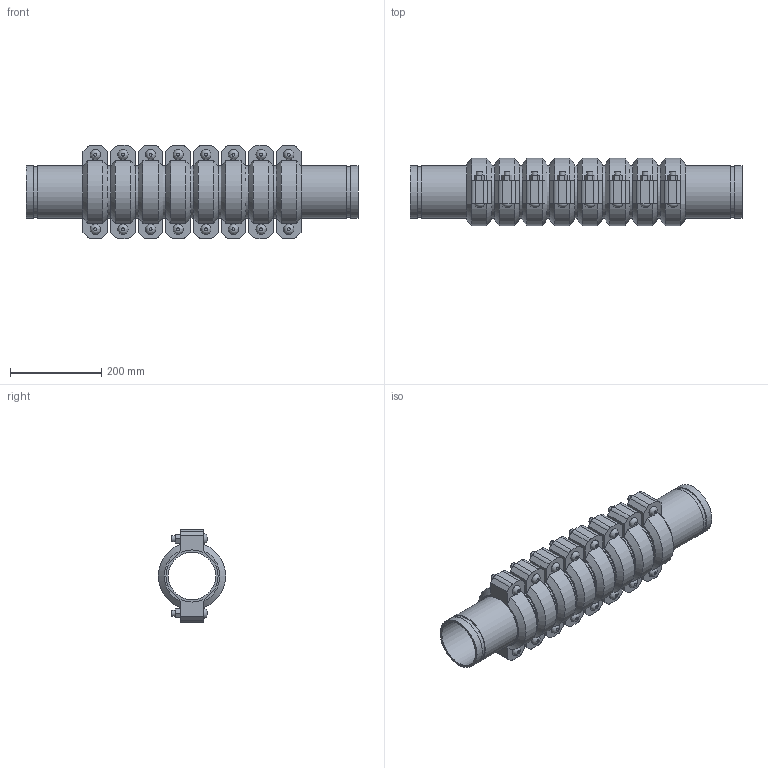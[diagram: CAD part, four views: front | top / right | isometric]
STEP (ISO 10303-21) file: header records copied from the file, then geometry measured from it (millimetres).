
FILE_DESCRIPTION(/* description */ ('VIC EXPANSION JOINT 8 COUPLINGS COMPRESSED STYLE 155 (OGS)','CAx-IF Rec.Pracs.---Representation and Presentation of Product Manufacturing Information (PMI)---4.0---2014-10-13'),/* implementation_level */ '2;1');
FILE_NAME(/* name */ 'C:\Users\kkamble\AppData\Roaming\Autodesk\ApplicationPlugins\Victaulic.Temp\A709\Victaulic_IPS_Expansion Joint_Compressed_8 Couplings_Style 155 (OGS)_4 (100).stp',/* time_stamp */ '2021-06-27T00:36:14+02:00',/* author */ ('kkamble'),/* organization */ ('Victaulic'),/* preprocessor_version */ 'ST-DEVELOPER v17.2',/* originating_system */ 'Autodesk Inventor 2019',/* authorisation */ '');
FILE_SCHEMA (('AP242_MANAGED_MODEL_BASED_3D_ENGINEERING_MIM_LF { 1 0 10303 442 1 1 4 }'));
Length unit declared in the file: inch
Products named in the file (4): 155-04.0; Nipple-04.0; Nipple-04.0_1; 075_8_Coup-04.0
Assembly tree (17 placements, depth 2):
  155-04.0
    Nipple-04.0  x2
    Nipple-04.0_1  x7
    075_8_Coup-04.0  x8
Bounding box: 727.2 x 147.32 x 203.96 mm (x, y, z)
Volume: 4993623 mm3; surface area: 1176773.2 mm2
Topology: 17 solids, 33 shells, 564 faces, 1334 edges, 936 vertices
Faces by surface type: plane 342, cylinder 174, cone 32, bspline 16
Full cylindrical faces by diameter (mm): 12.7 x32, 14.605 x16, 103.988 x9, 107.95 x8, 110.084 x18, 114.3 x43
Entity records: 2858 total; most frequent: CARTESIAN_POINT 501, DIRECTION 477, ORIENTED_EDGE 386, EDGE_CURVE 193, AXIS2_PLACEMENT_3D 192, VERTEX_POINT 138, EDGE_LOOP 107, LINE 93
